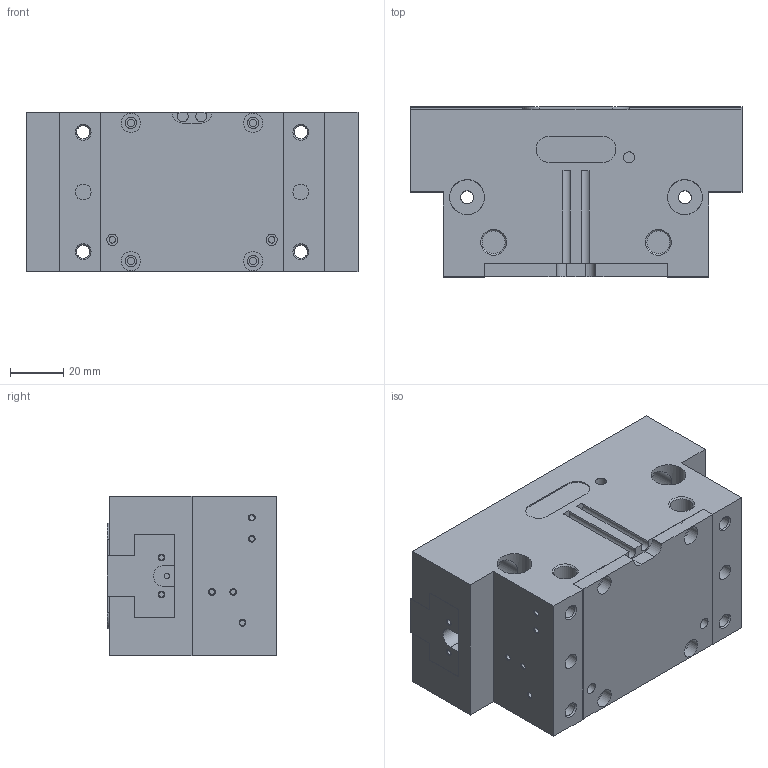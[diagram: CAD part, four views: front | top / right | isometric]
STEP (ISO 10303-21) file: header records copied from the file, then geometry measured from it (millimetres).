
FILE_DESCRIPTION( ( 'STEP AP214' ), '1' );
FILE_NAME( 'C:/Users/ashearer/Desktop/Mindman New CAD/Grippers/MCHS-SD-125_0_.stp', ' ', ( ' ' ), ( ' ' ), 'PSStep 15.0.47', 'PARTsolutions', ' ' );
FILE_SCHEMA( ( 'AUTOMOTIVE_DESIGN { 1 0 10303 214 1 1 1 1 }' ) );
Length unit declared in the file: millimetre
Products named in the file (4): MCHS-SD-125(0); _MCHS-SD-125(dummy_0); _MCHS-SD-125_body; _MCHS-SD-125_finger
Assembly tree (4 placements, depth 2):
  MCHS-SD-125(0)
    _MCHS-SD-125(dummy_0)
    _MCHS-SD-125_body
    _MCHS-SD-125_finger  x2
Bounding box: 125 x 64 x 60 mm (x, y, z)
Volume: 378662.1 mm3; surface area: 80588.8 mm2
Topology: 3 solids, 3 shells, 363 faces, 847 edges, 548 vertices
Faces by surface type: plane 205, cylinder 98, cone 60
Full cylindrical faces by diameter (mm): 2.013 x20, 2.459 x2, 2.5 x4, 2.85 x4, 4.134 x2, 4.2 x2, 4.3 x4, 4.917 x14, 6 x4, 7.2 x4, 8.566 x4, 10 x6, 11 x6, 13.2 x2
Entity records: 10336 total; most frequent: CARTESIAN_POINT 1860, DIRECTION 1300, ORIENTED_EDGE 1030, EDGE_CURVE 515, AXIS2_PLACEMENT_3D 506, EDGE_LOOP 492, VERTEX_POINT 405, FACE_OUTER_BOUND 353
